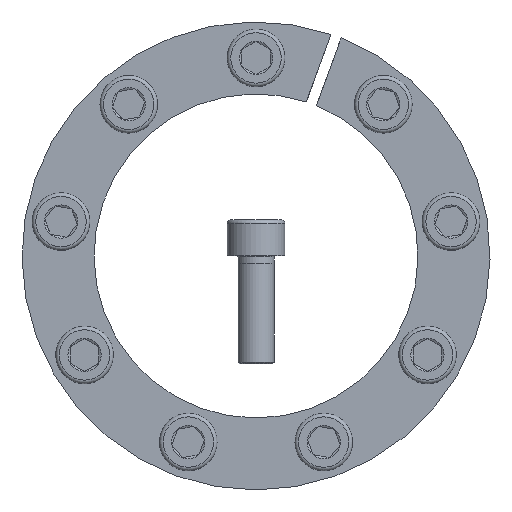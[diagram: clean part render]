
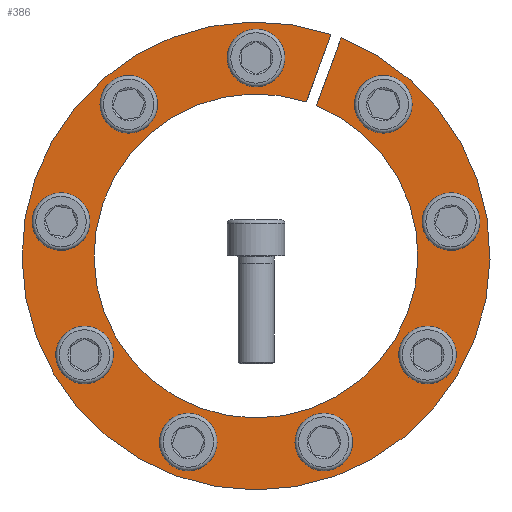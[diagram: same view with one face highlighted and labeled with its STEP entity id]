
A CAD part, front view. The second image highlights one B-rep face of the part: STEP entity #386.
In plain terms, the highlighted planar face has unit normal (0, -1, 0).
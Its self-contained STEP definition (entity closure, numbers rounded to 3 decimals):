
#386 = ADVANCED_FACE( '', ( #591, #592, #593, #594, #595, #596, #597, #598, #599, #600 ), #601, .F. );
#591 = FACE_BOUND( '', #765, .T. );
#592 = FACE_BOUND( '', #766, .T. );
#593 = FACE_BOUND( '', #767, .T. );
#594 = FACE_BOUND( '', #768, .T. );
#595 = FACE_OUTER_BOUND( '', #769, .T. );
#596 = FACE_BOUND( '', #770, .T. );
#597 = FACE_BOUND( '', #771, .T. );
#598 = FACE_BOUND( '', #772, .T. );
#599 = FACE_BOUND( '', #773, .T. );
#600 = FACE_BOUND( '', #774, .T. );
#601 = PLANE( '', #775 );
#765 = EDGE_LOOP( '', ( #988 ) );
#766 = EDGE_LOOP( '', ( #989 ) );
#767 = EDGE_LOOP( '', ( #990 ) );
#768 = EDGE_LOOP( '', ( #991 ) );
#769 = EDGE_LOOP( '', ( #992, #993, #994, #995 ) );
#770 = EDGE_LOOP( '', ( #996 ) );
#771 = EDGE_LOOP( '', ( #997 ) );
#772 = EDGE_LOOP( '', ( #998 ) );
#773 = EDGE_LOOP( '', ( #999 ) );
#774 = EDGE_LOOP( '', ( #1000 ) );
#775 = AXIS2_PLACEMENT_3D( '', #1001, #1002, #1003 );
#988 = ORIENTED_EDGE( '', *, *, #1336, .T. );
#989 = ORIENTED_EDGE( '', *, *, #1337, .T. );
#990 = ORIENTED_EDGE( '', *, *, #1338, .T. );
#991 = ORIENTED_EDGE( '', *, *, #1339, .T. );
#992 = ORIENTED_EDGE( '', *, *, #1334, .F. );
#993 = ORIENTED_EDGE( '', *, *, #1330, .F. );
#994 = ORIENTED_EDGE( '', *, *, #1340, .T. );
#995 = ORIENTED_EDGE( '', *, *, #1341, .F. );
#996 = ORIENTED_EDGE( '', *, *, #1342, .T. );
#997 = ORIENTED_EDGE( '', *, *, #1343, .T. );
#998 = ORIENTED_EDGE( '', *, *, #1344, .T. );
#999 = ORIENTED_EDGE( '', *, *, #1345, .T. );
#1000 = ORIENTED_EDGE( '', *, *, #1346, .T. );
#1001 = CARTESIAN_POINT( '', ( 0., 0., 65. ) );
#1002 = DIRECTION( '', ( 0., 1., 0. ) );
#1003 = DIRECTION( '', ( 0., 0., 1. ) );
#1330 = EDGE_CURVE( '', #1469, #1471, #1472, .T. );
#1334 = EDGE_CURVE( '', #1471, #1478, #1479, .T. );
#1336 = EDGE_CURVE( '', #1481, #1481, #1482, .T. );
#1337 = EDGE_CURVE( '', #1483, #1483, #1484, .T. );
#1338 = EDGE_CURVE( '', #1485, #1485, #1486, .T. );
#1339 = EDGE_CURVE( '', #1487, #1487, #1488, .T. );
#1340 = EDGE_CURVE( '', #1469, #1489, #1490, .T. );
#1341 = EDGE_CURVE( '', #1478, #1489, #1491, .T. );
#1342 = EDGE_CURVE( '', #1492, #1492, #1493, .T. );
#1343 = EDGE_CURVE( '', #1494, #1494, #1495, .T. );
#1344 = EDGE_CURVE( '', #1496, #1496, #1497, .T. );
#1345 = EDGE_CURVE( '', #1498, #1498, #1499, .T. );
#1346 = EDGE_CURVE( '', #1500, #1500, #1501, .T. );
#1469 = VERTEX_POINT( '', #1605 );
#1471 = VERTEX_POINT( '', #1608 );
#1472 = LINE( '', #1609, #1610 );
#1478 = VERTEX_POINT( '', #1618 );
#1479 = CIRCLE( '', #1619, 45. );
#1481 = VERTEX_POINT( '', #1622 );
#1482 = CIRCLE( '', #1623, 5. );
#1483 = VERTEX_POINT( '', #1624 );
#1484 = CIRCLE( '', #1625, 5. );
#1485 = VERTEX_POINT( '', #1626 );
#1486 = CIRCLE( '', #1627, 5. );
#1487 = VERTEX_POINT( '', #1628 );
#1488 = CIRCLE( '', #1629, 5. );
#1489 = VERTEX_POINT( '', #1630 );
#1490 = CIRCLE( '', #1631, 65. );
#1491 = LINE( '', #1632, #1633 );
#1492 = VERTEX_POINT( '', #1634 );
#1493 = CIRCLE( '', #1635, 5. );
#1494 = VERTEX_POINT( '', #1636 );
#1495 = CIRCLE( '', #1637, 5. );
#1496 = VERTEX_POINT( '', #1638 );
#1497 = CIRCLE( '', #1639, 5. );
#1498 = VERTEX_POINT( '', #1640 );
#1499 = CIRCLE( '', #1641, 5. );
#1500 = VERTEX_POINT( '', #1642 );
#1501 = CIRCLE( '', #1643, 5. );
#1605 = CARTESIAN_POINT( '', ( 20.816, 0., 61.577 ) );
#1608 = CARTESIAN_POINT( '', ( 13.973, 0., 42.776 ) );
#1609 = CARTESIAN_POINT( '', ( 20.822, 0., 61.593 ) );
#1610 = VECTOR( '', #1736, 1000. );
#1618 = CARTESIAN_POINT( '', ( 16.792, 0., 41.75 ) );
#1619 = AXIS2_PLACEMENT_3D( '', #1742, #1743, #1744 );
#1622 = CARTESIAN_POINT( '', ( -53.296, 0., 14.475 ) );
#1623 = AXIS2_PLACEMENT_3D( '', #1746, #1747, #1748 );
#1624 = CARTESIAN_POINT( '', ( -23.51, 0., -49.973 ) );
#1625 = AXIS2_PLACEMENT_3D( '', #1749, #1750, #1751 );
#1626 = CARTESIAN_POINT( '', ( 45.131, 0., -31.83 ) );
#1627 = AXIS2_PLACEMENT_3D( '', #1752, #1753, #1754 );
#1628 = CARTESIAN_POINT( '', ( 39.184, 0., 38.919 ) );
#1629 = AXIS2_PLACEMENT_3D( '', #1755, #1756, #1757 );
#1630 = CARTESIAN_POINT( '', ( 23.635, 0., 60.551 ) );
#1631 = AXIS2_PLACEMENT_3D( '', #1758, #1759, #1760 );
#1632 = CARTESIAN_POINT( '', ( 16.792, 0., 41.75 ) );
#1633 = VECTOR( '', #1761, 1000. );
#1634 = CARTESIAN_POINT( '', ( 5., 0., 55. ) );
#1635 = AXIS2_PLACEMENT_3D( '', #1762, #1763, #1764 );
#1636 = CARTESIAN_POINT( '', ( 55.033, 0., 4.627 ) );
#1637 = AXIS2_PLACEMENT_3D( '', #1765, #1766, #1767 );
#1638 = CARTESIAN_POINT( '', ( 14.113, 0., -53.393 ) );
#1639 = AXIS2_PLACEMENT_3D( '', #1768, #1769, #1770 );
#1640 = CARTESIAN_POINT( '', ( -50.131, 0., -23.17 ) );
#1641 = AXIS2_PLACEMENT_3D( '', #1771, #1772, #1773 );
#1642 = CARTESIAN_POINT( '', ( -31.523, 0., 45.346 ) );
#1643 = AXIS2_PLACEMENT_3D( '', #1774, #1775, #1776 );
#1736 = DIRECTION( '', ( -0.342, 0., -0.94 ) );
#1742 = CARTESIAN_POINT( '', ( 0., 0., 0. ) );
#1743 = DIRECTION( '', ( 0., -1., 0. ) );
#1744 = DIRECTION( '', ( 0., 0., -1. ) );
#1746 = CARTESIAN_POINT( '', ( -54.164, 0., 9.551 ) );
#1747 = DIRECTION( '', ( 0., 1., 0. ) );
#1748 = DIRECTION( '', ( 0.174, 0., 0.985 ) );
#1749 = CARTESIAN_POINT( '', ( -18.811, 0., -51.683 ) );
#1750 = DIRECTION( '', ( 0., 1., 0. ) );
#1751 = DIRECTION( '', ( -0.94, 0., 0.342 ) );
#1752 = CARTESIAN_POINT( '', ( 47.631, 0., -27.5 ) );
#1753 = DIRECTION( '', ( 0., 1., 0. ) );
#1754 = DIRECTION( '', ( -0.5, 0., -0.866 ) );
#1755 = CARTESIAN_POINT( '', ( 35.353, 0., 42.132 ) );
#1756 = DIRECTION( '', ( 0., 1., 0. ) );
#1757 = DIRECTION( '', ( 0.766, 0., -0.643 ) );
#1758 = CARTESIAN_POINT( '', ( 0., 0., 0. ) );
#1759 = DIRECTION( '', ( 0., -1., 0. ) );
#1760 = DIRECTION( '', ( 0., 0., -1. ) );
#1761 = DIRECTION( '', ( 0.342, 0., 0.94 ) );
#1762 = CARTESIAN_POINT( '', ( 0., 0., 55. ) );
#1763 = DIRECTION( '', ( 0., 1., 0. ) );
#1764 = DIRECTION( '', ( 1., 0., 0. ) );
#1765 = CARTESIAN_POINT( '', ( 54.164, 0., 9.551 ) );
#1766 = DIRECTION( '', ( 0., 1., 0. ) );
#1767 = DIRECTION( '', ( 0.174, 0., -0.985 ) );
#1768 = CARTESIAN_POINT( '', ( 18.811, 0., -51.683 ) );
#1769 = DIRECTION( '', ( 0., 1., 0. ) );
#1770 = DIRECTION( '', ( -0.94, 0., -0.342 ) );
#1771 = CARTESIAN_POINT( '', ( -47.631, 0., -27.5 ) );
#1772 = DIRECTION( '', ( 0., 1., 0. ) );
#1773 = DIRECTION( '', ( -0.5, 0., 0.866 ) );
#1774 = CARTESIAN_POINT( '', ( -35.353, 0., 42.132 ) );
#1775 = DIRECTION( '', ( 0., 1., 0. ) );
#1776 = DIRECTION( '', ( 0.766, 0., 0.643 ) );
